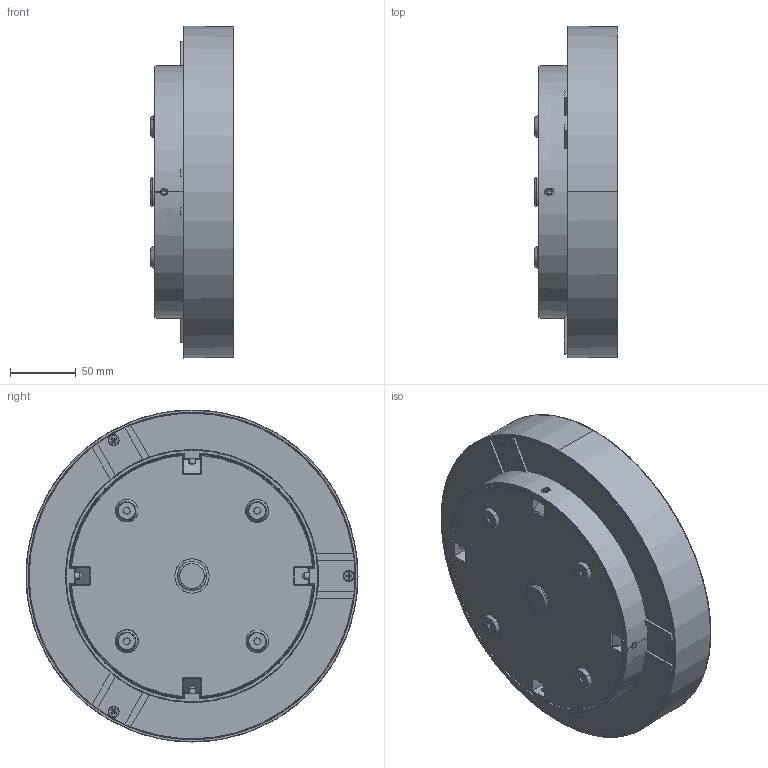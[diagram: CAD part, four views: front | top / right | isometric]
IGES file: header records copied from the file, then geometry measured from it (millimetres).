
Start section: SolidWorks IGES file using analytic representation for surfaces
Global section: file name: \\srvficheros\grupos\DISENYO\DESARROLLO DE PRODUCTO\_3D_WEB\KUMA-P2082171\KUMA-P2082171.IGS; native system: SolidWorks 2025; preprocessor: SolidWorks 2025; author: d.pons; date: 260114.110848; units: millimetre
Bounding box: 63.5 x 251.98 x 251.98 mm (x, y, z)
Surface area: 429777.9 mm2 (no closed solid volume)
Topology: 0 solids, 0 shells, 707 faces, 9471 edges, 9432 vertices
Faces by surface type: bspline 386, revolution 321
